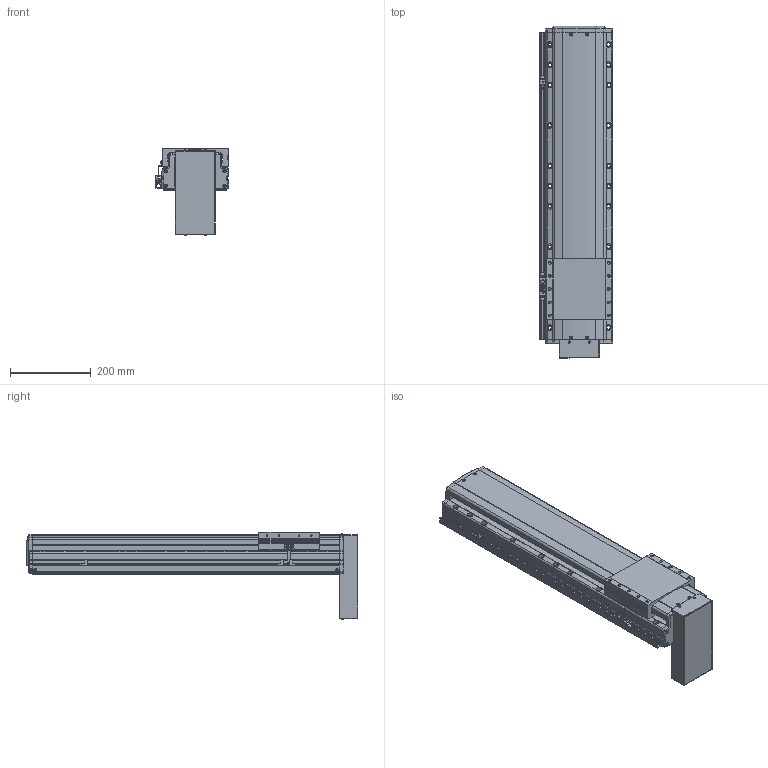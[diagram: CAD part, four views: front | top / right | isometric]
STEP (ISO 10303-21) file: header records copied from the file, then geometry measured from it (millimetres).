
FILE_DESCRIPTION(('STEP AP214'),'1');
FILE_NAME('Z:/Web/3D/PSA165/STP/PSA165-500 (3D)/PSA165ㅁㅁ-500PB+3SL.stp','2014-06-23T11:26:05',(' '),(' '),'Spatial InterOp 3D',' ',' ');
FILE_SCHEMA(('automotive_design'));
Length unit declared in the file: millimetre
Products named in the file (47): 스크루 : Round - M4.0 x 12.0; RRCV-PA160; BASE; 스크루 : Round - M4.0 x 10.0; RN15; Screw 20; SLIDE; FRCV; MTPL CV- PB; 스크루 : Round - M3.0 x 6.0; 1; 2; M3.0 x 6.0; SRL-16x17-360L; SGD-SAN150; EE-SX674; SBK-SX674-352; BHCS M4.0 x 10.0
Bounding box: 181 x 820.8 x 215.96 mm (x, y, z)
Volume: 11827454.8 mm3; surface area: 902335.7 mm2
Topology: 47 solids, 47 shells, 2632 faces, 7000 edges, 4496 vertices
Faces by surface type: plane 1525, cylinder 764, cone 230, sphere 72, bspline 25, torus 16
Entity records: 106251 total; most frequent: CARTESIAN_POINT 18085, DIRECTION 14043, ORIENTED_EDGE 13724, EDGE_CURVE 6862, AXIS2_PLACEMENT_3D 4714, LINE 4615, VECTOR 4615, VERTEX_POINT 4496
